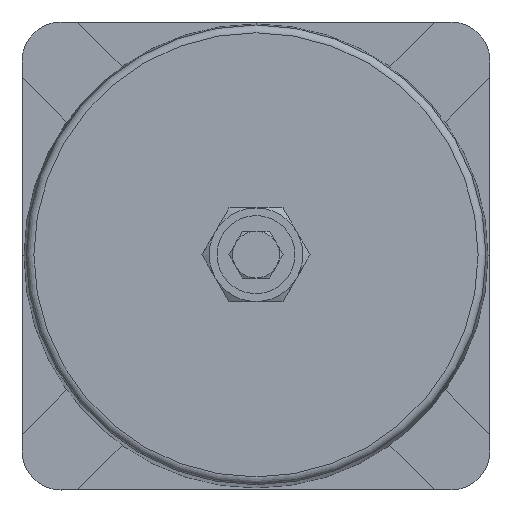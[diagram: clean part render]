
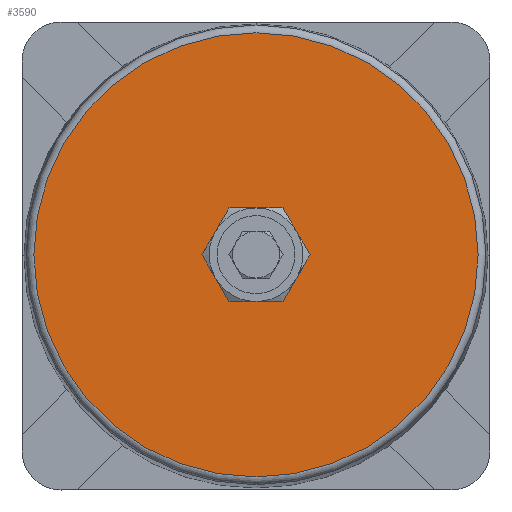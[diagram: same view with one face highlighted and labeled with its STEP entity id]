
A CAD part, top view. The second image highlights one B-rep face of the part: STEP entity #3590.
In plain terms, the highlighted planar face has unit normal (0, 0, 1).
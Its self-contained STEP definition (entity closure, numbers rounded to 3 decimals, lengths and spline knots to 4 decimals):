
#184=FACE_BOUND('',#645,.T.);
#250=CIRCLE('',#3849,3.5599);
#252=CIRCLE('',#3853,0.4375);
#414=FACE_OUTER_BOUND('',#644,.T.);
#644=EDGE_LOOP('',(#2518));
#645=EDGE_LOOP('',(#2519));
#1484=VERTEX_POINT('',#5373);
#1486=VERTEX_POINT('',#5379);
#1864=EDGE_CURVE('',#1484,#1484,#250,.T.);
#1866=EDGE_CURVE('',#1486,#1486,#252,.T.);
#2518=ORIENTED_EDGE('',*,*,#1864,.F.);
#2519=ORIENTED_EDGE('',*,*,#1866,.F.);
#3208=PLANE('',#3852);
#3590=ADVANCED_FACE('',(#414,#184),#3208,.T.);
#3849=AXIS2_PLACEMENT_3D('',#5374,#4366,#4367);
#3852=AXIS2_PLACEMENT_3D('',#5378,#4372,#4373);
#3853=AXIS2_PLACEMENT_3D('',#5380,#4374,#4375);
#4366=DIRECTION('center_axis',(0.,0.,
-1.));
#4367=DIRECTION('ref_axis',(-1.,0.,0.));
#4372=DIRECTION('center_axis',(0.,0.,
1.));
#4373=DIRECTION('ref_axis',(1.,0.,0.));
#4374=DIRECTION('center_axis',(0.,0.,
1.));
#4375=DIRECTION('ref_axis',(1.,0.,0.));
#5373=CARTESIAN_POINT('',(3.5599,0.,10.8125));
#5374=CARTESIAN_POINT('Origin',(0.,0.,
10.8125));
#5378=CARTESIAN_POINT('Origin',(2.0625,0.,10.8125));
#5379=CARTESIAN_POINT('',(0.4375,0.,10.8125));
#5380=CARTESIAN_POINT('Origin',(0.,0.,
10.8125));
